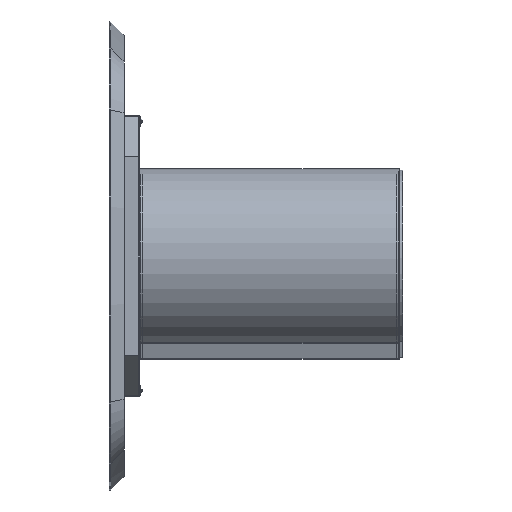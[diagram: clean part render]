
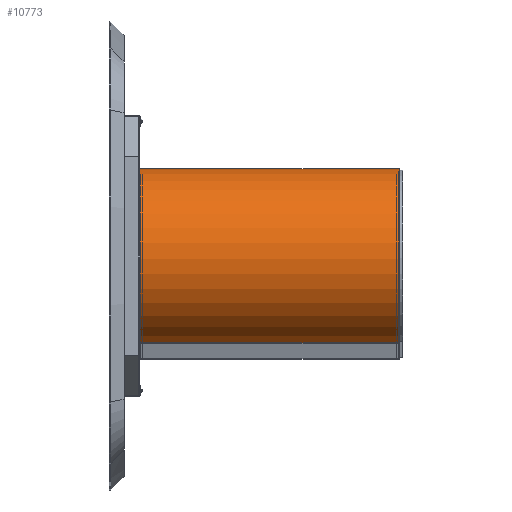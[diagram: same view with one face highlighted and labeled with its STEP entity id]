
A CAD part, left-side view. The second image highlights one B-rep face of the part: STEP entity #10773.
In plain terms, the highlighted cylindrical face has radius 230 mm (diameter 460 mm), a partial arc.
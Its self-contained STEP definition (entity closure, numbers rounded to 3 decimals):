
#1371 = ORIENTED_EDGE ( 'NONE', *, *, #21187, .F. ) ;
#1772 = ORIENTED_EDGE ( 'NONE', *, *, #17789, .F. ) ;
#2101 = CIRCLE ( 'NONE', #14491, 230. ) ;
#3257 = LINE ( 'NONE', #18654, #17359 ) ;
#3583 = CARTESIAN_POINT ( 'NONE',  ( 2., 0., 0. ) ) ;
#3708 = EDGE_CURVE ( 'NONE', #18957, #12580, #3257, .T. ) ;
#5822 = EDGE_LOOP ( 'NONE', ( #15811, #1371, #1772, #6285 ) ) ;
#6198 = CIRCLE ( 'NONE', #18556, 230. ) ;
#6285 = ORIENTED_EDGE ( 'NONE', *, *, #3708, .T. ) ;
#6574 = DIRECTION ( 'NONE',  ( 0., 1., 0. ) ) ;
#6922 = DIRECTION ( 'NONE',  ( 0., -1., 0. ) ) ;
#7118 = VERTEX_POINT ( 'NONE', #16659 ) ;
#7191 = FACE_OUTER_BOUND ( 'NONE', #5822, .T. ) ;
#7797 = EDGE_CURVE ( 'NONE', #12580, #7118, #6198, .T. ) ;
#9005 = CARTESIAN_POINT ( 'NONE',  ( 2., 665., 0. ) ) ;
#9958 = AXIS2_PLACEMENT_3D ( 'NONE', #9005, #15834, #21079 ) ;
#10773 = ADVANCED_FACE ( 'NONE', ( #7191 ), #11368, .T. ) ;
#11368 = CYLINDRICAL_SURFACE ( 'NONE', #9958, 230. ) ;
#11941 = CARTESIAN_POINT ( 'NONE',  ( 2., 0., 230. ) ) ;
#12004 = VECTOR ( 'NONE', #12109, 1000. ) ;
#12017 = DIRECTION ( 'NONE',  ( 0., 1., 0. ) ) ;
#12109 = DIRECTION ( 'NONE',  ( 0., -1., 0. ) ) ;
#12580 = VERTEX_POINT ( 'NONE', #11941 ) ;
#14392 = CARTESIAN_POINT ( 'NONE',  ( 2., 665., -230. ) ) ;
#14491 = AXIS2_PLACEMENT_3D ( 'NONE', #18863, #12017, #15334 ) ;
#15231 = CARTESIAN_POINT ( 'NONE',  ( 2., 665., -230. ) ) ;
#15334 = DIRECTION ( 'NONE',  ( 0., 0., 1. ) ) ;
#15811 = ORIENTED_EDGE ( 'NONE', *, *, #7797, .T. ) ;
#15834 = DIRECTION ( 'NONE',  ( 0., -1., 0. ) ) ;
#16659 = CARTESIAN_POINT ( 'NONE',  ( 2., 0., -230. ) ) ;
#17359 = VECTOR ( 'NONE', #6922, 1000. ) ;
#17481 = DIRECTION ( 'NONE',  ( 0., 0., 1. ) ) ;
#17789 = EDGE_CURVE ( 'NONE', #18957, #20588, #2101, .T. ) ;
#17804 = LINE ( 'NONE', #14392, #12004 ) ;
#18556 = AXIS2_PLACEMENT_3D ( 'NONE', #3583, #6574, #17481 ) ;
#18654 = CARTESIAN_POINT ( 'NONE',  ( 2., 665., 230. ) ) ;
#18863 = CARTESIAN_POINT ( 'NONE',  ( 2., 665., 0. ) ) ;
#18957 = VERTEX_POINT ( 'NONE', #19337 ) ;
#19337 = CARTESIAN_POINT ( 'NONE',  ( 2., 665., 230. ) ) ;
#20588 = VERTEX_POINT ( 'NONE', #15231 ) ;
#21079 = DIRECTION ( 'NONE',  ( 0., 0., -1. ) ) ;
#21187 = EDGE_CURVE ( 'NONE', #20588, #7118, #17804, .T. ) ;
